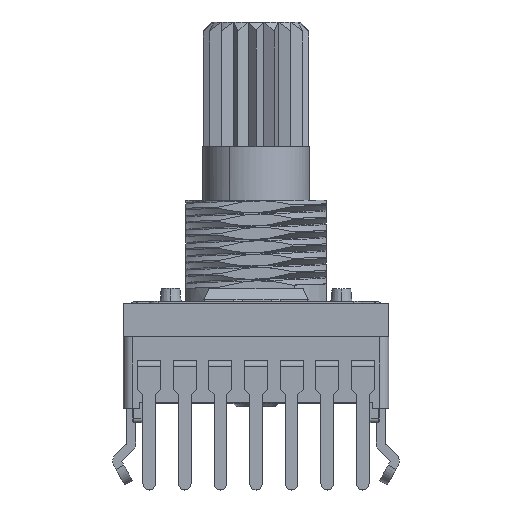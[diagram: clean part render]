
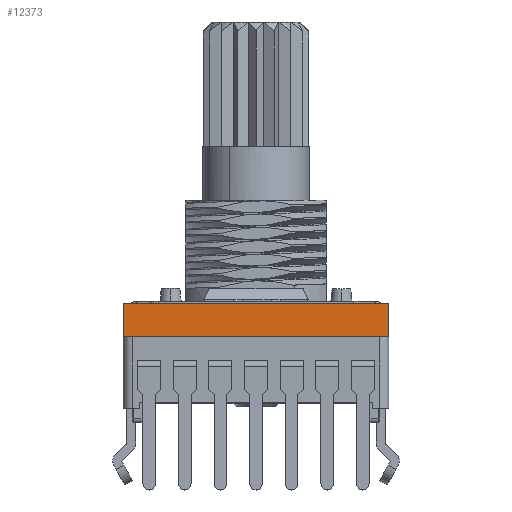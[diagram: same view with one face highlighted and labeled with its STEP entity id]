
A CAD part, top view. The second image highlights one B-rep face of the part: STEP entity #12373.
In plain terms, the highlighted planar face has unit normal (0, 0, 1).
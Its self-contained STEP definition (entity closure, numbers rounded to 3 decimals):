
#655 = DIRECTION ( 'NONE',  ( 0., 1., 0. ) ) ;
#775 = CARTESIAN_POINT ( 'NONE',  ( 0., 3.7, -1. ) ) ;
#2251 = FACE_OUTER_BOUND ( 'NONE', #12998, .T. ) ;
#3674 = VECTOR ( 'NONE', #22037, 1000. ) ;
#5606 = VERTEX_POINT ( 'NONE', #28890 ) ;
#5704 = EDGE_CURVE ( 'NONE', #27093, #19854, #36003, .T. ) ;
#6369 = VECTOR ( 'NONE', #655, 1000. ) ;
#7151 = CARTESIAN_POINT ( 'NONE',  ( 7.45, 5.6, -1. ) ) ;
#8032 = DIRECTION ( 'NONE',  ( 1., 0., 0. ) ) ;
#9140 = CARTESIAN_POINT ( 'NONE',  ( 7.45, 3.7, -1. ) ) ;
#10825 = ORIENTED_EDGE ( 'NONE', *, *, #17689, .T. ) ;
#12373 = ADVANCED_FACE ( 'NONE', ( #2251 ), #28545, .T. ) ;
#12723 = VERTEX_POINT ( 'NONE', #32004 ) ;
#12851 = ORIENTED_EDGE ( 'NONE', *, *, #38060, .F. ) ;
#12998 = EDGE_LOOP ( 'NONE', ( #34990, #25989, #12851, #10825 ) ) ;
#14692 = EDGE_CURVE ( 'NONE', #12723, #19854, #24939, .T. ) ;
#14993 = CARTESIAN_POINT ( 'NONE',  ( -7.45, 3.7, -1. ) ) ;
#16567 = DIRECTION ( 'NONE',  ( 0., 0., 1. ) ) ;
#17689 = EDGE_CURVE ( 'NONE', #5606, #27093, #30139, .T. ) ;
#18933 = DIRECTION ( 'NONE',  ( 1., 0., 0. ) ) ;
#19854 = VERTEX_POINT ( 'NONE', #20650 ) ;
#20650 = CARTESIAN_POINT ( 'NONE',  ( 7.45, 5.6, -1. ) ) ;
#20857 = DIRECTION ( 'NONE',  ( 1., 0., 0. ) ) ;
#21315 = AXIS2_PLACEMENT_3D ( 'NONE', #31055, #16567, #8032 ) ;
#22037 = DIRECTION ( 'NONE',  ( 0., 1., 0. ) ) ;
#24939 = LINE ( 'NONE', #7151, #32686 ) ;
#25989 = ORIENTED_EDGE ( 'NONE', *, *, #14692, .F. ) ;
#27093 = VERTEX_POINT ( 'NONE', #28059 ) ;
#27856 = LINE ( 'NONE', #14993, #3674 ) ;
#28059 = CARTESIAN_POINT ( 'NONE',  ( 7.45, 3.7, -1. ) ) ;
#28545 = PLANE ( 'NONE',  #21315 ) ;
#28890 = CARTESIAN_POINT ( 'NONE',  ( -7.45, 3.7, -1. ) ) ;
#30139 = LINE ( 'NONE', #775, #30290 ) ;
#30290 = VECTOR ( 'NONE', #20857, 1000. ) ;
#31055 = CARTESIAN_POINT ( 'NONE',  ( 0., 3.7, -1. ) ) ;
#32004 = CARTESIAN_POINT ( 'NONE',  ( -7.45, 5.6, -1. ) ) ;
#32686 = VECTOR ( 'NONE', #18933, 1000. ) ;
#34990 = ORIENTED_EDGE ( 'NONE', *, *, #5704, .T. ) ;
#36003 = LINE ( 'NONE', #9140, #6369 ) ;
#38060 = EDGE_CURVE ( 'NONE', #5606, #12723, #27856, .T. ) ;
